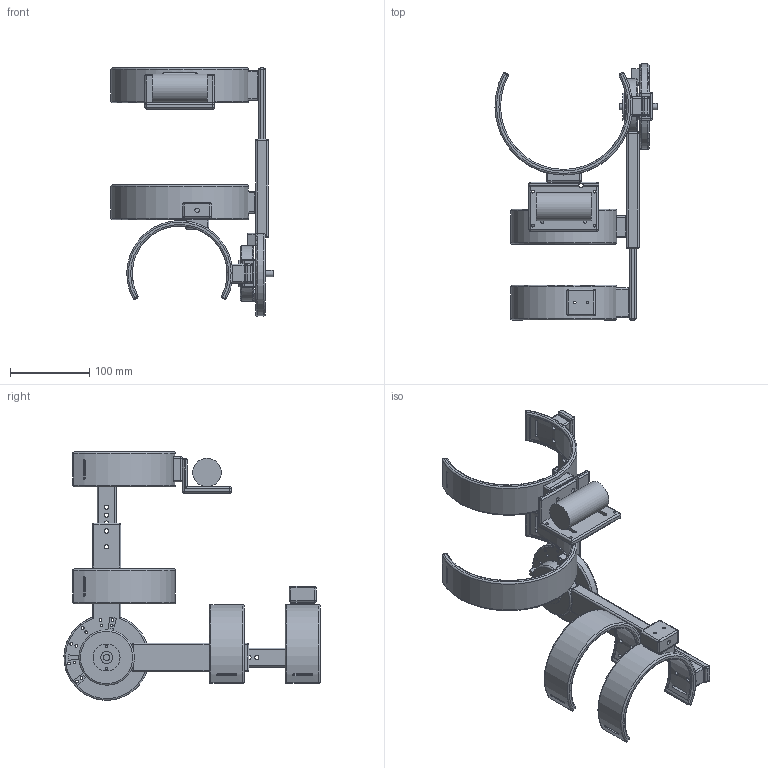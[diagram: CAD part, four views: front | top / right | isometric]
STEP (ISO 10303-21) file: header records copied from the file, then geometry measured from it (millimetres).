
FILE_DESCRIPTION(('Open CASCADE Model'),'2;1');
FILE_NAME('Open CASCADE Shape Model','2026-11-04T08:45:24',('Author'),( 'Open CASCADE'),'Open CASCADE STEP processor 7.8','Open CASCADE 7.8' ,'Unknown');
FILE_SCHEMA(('AUTOMOTIVE_DESIGN { 1 0 10303 214 1 1 1 1 }'));
Length unit declared in the file: millimetre
Products named in the file (19): Orthosis_V01_STRUCTURAL_90deg; A01; A02; A03; A04; A05; A06; A07; A09_extension; A09_flexion; A10_inner; A10_outer; A11; R01_a; R01_b; R02; R03; R04; R05
Assembly tree (18 placements, depth 2):
  Orthosis_V01_STRUCTURAL_90deg
    A01
    A02
    A03
    A04
    A05
    A06
    A07
    A09_extension
    A09_flexion
    A10_inner
    A10_outer
    A11
    R01_a
    R01_b
    R02
    R03
    R04
    R05
Bounding box: 204.99 x 323.95 x 313.81 mm (x, y, z)
Volume: 880235.9 mm3; surface area: 282998.8 mm2
Topology: 18 solids, 18 shells, 641 faces, 1541 edges, 828 vertices
Faces by surface type: cylinder 316, plane 180, sphere 124, torus 21
Full cylindrical faces by diameter (mm): 3.4 x30, 5.5 x40, 5.6 x1, 8 x3, 8.2 x3, 12 x2, 15 x2, 16 x1, 22 x2, 22.025 x2, 34 x2, 36 x1, 70 x1
Entity records: 44247 total; most frequent: CARTESIAN_POINT 14412, DIRECTION 5688, LINE 2857, VECTOR 2857, ORIENTED_EDGE 2842, PCURVE 2842, DEFINITIONAL_REPRESENTATION 2842, EDGE_CURVE 1421
